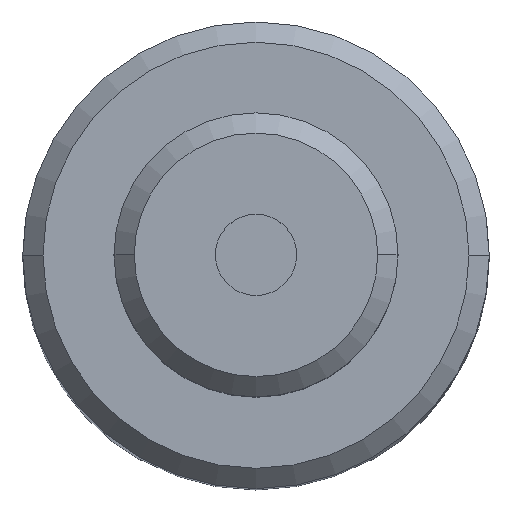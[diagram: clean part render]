
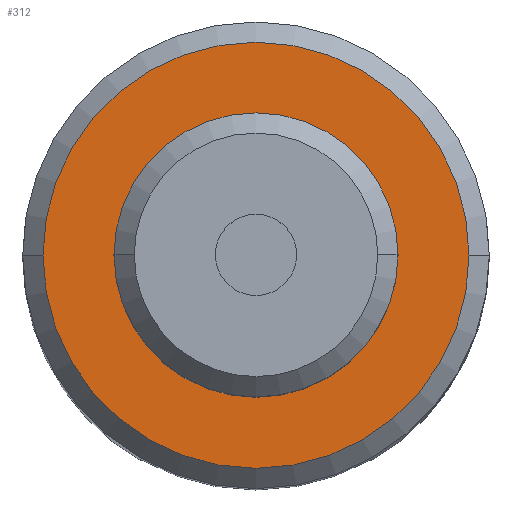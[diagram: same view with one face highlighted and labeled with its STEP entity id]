
A CAD part, top view. The second image highlights one B-rep face of the part: STEP entity #312.
In plain terms, the highlighted planar face has unit normal (0, 0, 1).
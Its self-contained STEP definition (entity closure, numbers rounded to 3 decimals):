
#182=AXIS2_PLACEMENT_3D('Circle Axis2P3D',#180,#181,$) ;
#208=AXIS2_PLACEMENT_3D('Circle Axis2P3D',#206,#207,$) ;
#288=AXIS2_PLACEMENT_3D('Plane Axis2P3D',#285,#286,#287) ;
#292=AXIS2_PLACEMENT_3D('Circle Axis2P3D',#290,#291,$) ;
#301=AXIS2_PLACEMENT_3D('Circle Axis2P3D',#299,#300,$) ;
#177=CARTESIAN_POINT('Vertex',(-3.5,0.,34.5)) ;
#180=CARTESIAN_POINT('Axis2P3D Location',(0.,0.,34.5)) ;
#184=CARTESIAN_POINT('Vertex',(3.5,0.,34.5)) ;
#206=CARTESIAN_POINT('Axis2P3D Location',(0.,0.,34.5)) ;
#285=CARTESIAN_POINT('Axis2P3D Location',(0.,0.,34.5)) ;
#290=CARTESIAN_POINT('Axis2P3D Location',(0.,0.,34.5)) ;
#294=CARTESIAN_POINT('Vertex',(5.25,0.,34.5)) ;
#296=CARTESIAN_POINT('Vertex',(-5.25,0.,34.5)) ;
#299=CARTESIAN_POINT('Axis2P3D Location',(0.,0.,34.5)) ;
#181=DIRECTION('Axis2P3D Direction',(0.,0.,1.)) ;
#207=DIRECTION('Axis2P3D Direction',(0.,0.,1.)) ;
#286=DIRECTION('Axis2P3D Direction',(0.,0.,1.)) ;
#287=DIRECTION('Axis2P3D XDirection',(1.,0.,0.)) ;
#291=DIRECTION('Axis2P3D Direction',(0.,0.,1.)) ;
#300=DIRECTION('Axis2P3D Direction',(0.,0.,1.)) ;
#305=ORIENTED_EDGE('',*,*,#298,.T.) ;
#306=ORIENTED_EDGE('',*,*,#303,.T.) ;
#309=ORIENTED_EDGE('',*,*,#186,.F.) ;
#310=ORIENTED_EDGE('',*,*,#210,.F.) ;
#311=FACE_BOUND('',#308,.T.) ;
#312=ADVANCED_FACE('\X2\96F64EF651E04F554F53\X0\',(#307,#311),#289,.T.) ;
#183=CIRCLE('generated circle',#182,3.5) ;
#209=CIRCLE('generated circle',#208,3.5) ;
#293=CIRCLE('generated circle',#292,5.25) ;
#302=CIRCLE('generated circle',#301,5.25) ;
#186=EDGE_CURVE('',#178,#185,#183,.T.) ;
#210=EDGE_CURVE('',#185,#178,#209,.T.) ;
#298=EDGE_CURVE('',#295,#297,#293,.T.) ;
#303=EDGE_CURVE('',#297,#295,#302,.T.) ;
#304=EDGE_LOOP('',(#305,#306)) ;
#308=EDGE_LOOP('',(#309,#310)) ;
#307=FACE_OUTER_BOUND('',#304,.T.) ;
#289=PLANE('',#288) ;
#178=VERTEX_POINT('',#177) ;
#185=VERTEX_POINT('',#184) ;
#295=VERTEX_POINT('',#294) ;
#297=VERTEX_POINT('',#296) ;
